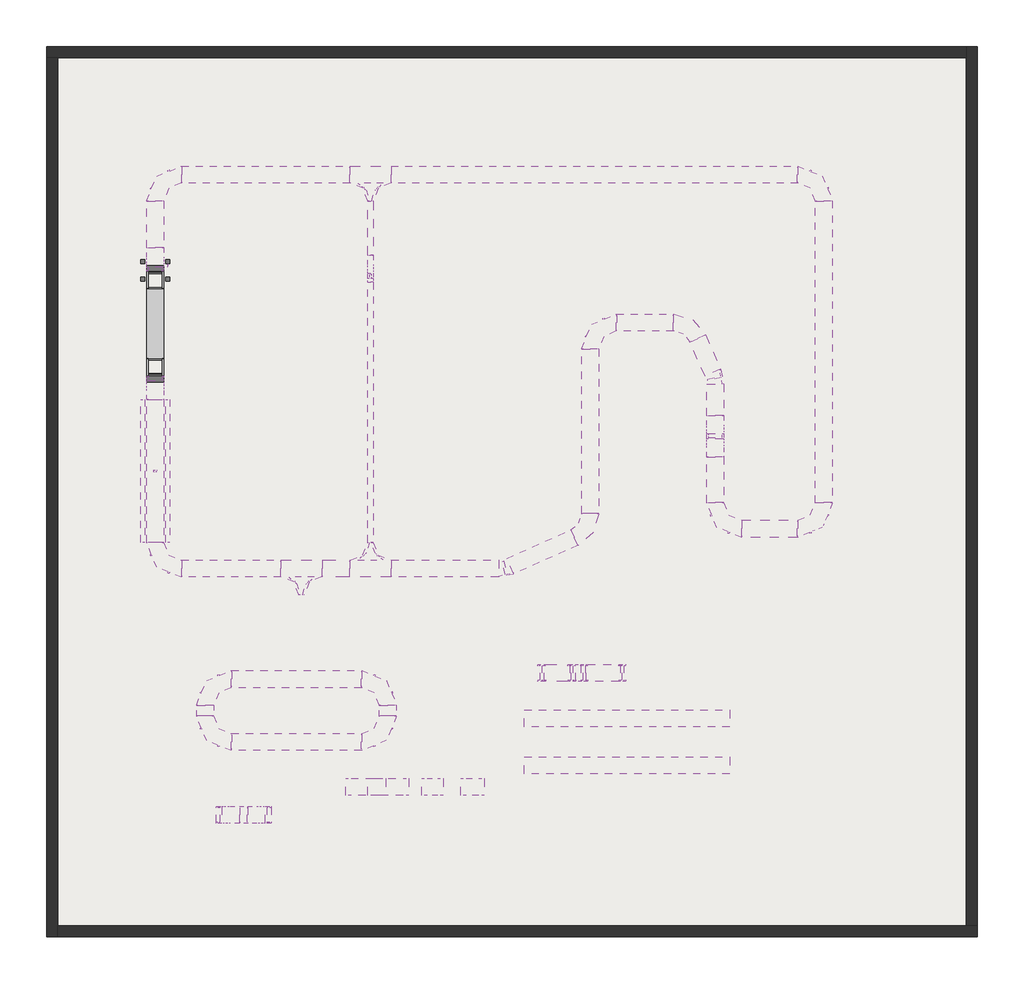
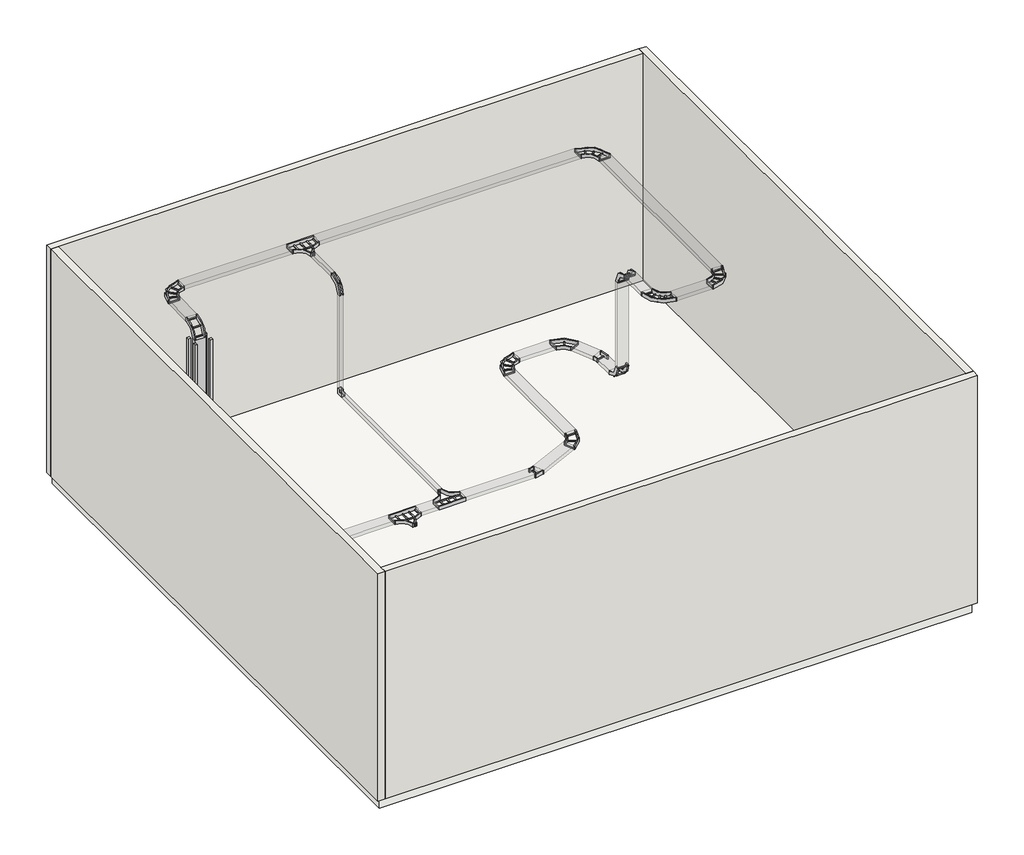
# One storey: 39 cable carrier segments, 33 cable carrier fittings, 10 proxies, 4 walls, 1 slab.
"""IFC4 building model written with IfcOpenShell, lengths in millimetres."""

from ifc_helpers import new_model, si_unit, frame, origin, place, context, project, spatial, polyline, outline, extrude, faceted_brep, transform, mapped, element, save
from components import generic_models_5b07f81f, generic_models_31e6af35, generic_models_7c58edcd, cable_carrier_fitting_be630497, cable_carrier_fitting_a6b9008f, cable_carrier_fitting_4d649961, cable_carrier_fitting_0e7ed510, cable_carrier_fitting_a781886d, cable_carrier_fitting_6eddc94f, cable_carrier_fitting_b7d36ccd, cable_carrier_fitting_2dadae37, cable_carrier_fitting_0848be47, cable_carrier_fitting_ae96e051, cable_carrier_fitting_1ec722ce, cable_carrier_fitting_dddc52f9

model = new_model("IFC4")

# Units and contexts
model_context = context("Model", 3, world=origin())
ifc_project = project(units=[si_unit("LENGTHUNIT", "METRE", prefix="MILLI")], contexts=[model_context])

# Site, building, storey
site = spatial("IfcSite", under=ifc_project)
building = spatial("IfcBuilding", under=site)
storey = spatial("IfcBuildingStorey", under=building, Name="Координационный план", Elevation=0.0)

# Proxies
placement = place(None, origin())
generic_models_shape = generic_models_5b07f81f(model_context)
element("IfcBuildingElementProxy", 1, Name="mS_GM_ОКЛ_Короб : ДваФ_EI_150_70мм_EI_45_10мм", ObjectType="mS_GM_ОКЛ_Короб : ДваФ_EI_150_70мм_EI_45_10мм", at=placement, inside=storey, context=model_context, shape_type="MappedRepresentation", body=[
    mapped(generic_models_shape, transform((6368.8657168, 4470.1116874, 2700.0), x_axis=(0.0, -1.0, 0.0), y_axis=(-1.0, 0.0, 0.0), z_axis=(0.0, 0.0, -1.0))),
])
generic_models_2_shape = generic_models_31e6af35(model_context)
element("IfcBuildingElementProxy", 2, Name="▲GM_ОКЛ_Плита : ДваФ", ObjectType="▲GM_ОКЛ_Плита : ДваФ", at=placement, inside=storey, context=model_context, shape_type="MappedRepresentation", body=[
    mapped(generic_models_2_shape, transform((6583.8657168, 4470.1116874, 2670.0), x_axis=(0.0, -1.0, 0.0), y_axis=(-1.0, 0.0, 0.0), z_axis=(0.0, 0.0, -1.0))),
])
element("IfcBuildingElementProxy", 3, Name="▲GM_ОКЛ_Плита : ДваФ", ObjectType="▲GM_ОКЛ_Плита : ДваФ", at=placement, inside=storey, context=model_context, shape_type="MappedRepresentation", body=[
    mapped(generic_models_2_shape, transform((6153.8657168, 4470.1116874, 2670.0), x_axis=(0.0, -1.0, 0.0), y_axis=(-1.0, 0.0, 0.0), z_axis=(0.0, 0.0, -1.0))),
])
element("IfcBuildingElementProxy", 4, Name="▲GM_ОКЛ_Плита : ДваФ", ObjectType="▲GM_ОКЛ_Плита : ДваФ", at=placement, inside=storey, context=model_context, shape_type="MappedRepresentation", body=[
    mapped(generic_models_2_shape, transform((6583.8657168, 4470.1116874, 2900.0), x_axis=(0.0, -1.0, 0.0), y_axis=(1.0, 0.0, 0.0), z_axis=(0.0, 0.0, 1.0))),
])
element("IfcBuildingElementProxy", 5, Name="▲GM_ОКЛ_Плита : ДваФ", ObjectType="▲GM_ОКЛ_Плита : ДваФ", at=placement, inside=storey, context=model_context, shape_type="MappedRepresentation", body=[
    mapped(generic_models_2_shape, transform((6153.8657168, 4470.1116874, 2900.0), x_axis=(0.0, -1.0, 0.0), y_axis=(1.0, 0.0, 0.0), z_axis=(0.0, 0.0, 1.0))),
])
element("IfcBuildingElementProxy", 6, Name="mS_GM_ОКЛ_Короб : Зона_EI_150_70мм_EI_45_10мм", ObjectType="mS_GM_ОКЛ_Короб : Зона_EI_150_70мм_EI_45_10мм", at=placement, inside=storey, context=model_context, shape_type="MappedRepresentation", body=[
    mapped(generic_models_shape, transform((6368.8657168, 8070.1116874, 3258.525), x_axis=(0.0, 0.0, -1.0), y_axis=(-1.0, 0.0, 0.0), z_axis=(0.0, 1.0, 0.0))),
])
generic_models_3_shape = generic_models_7c58edcd(model_context)
element("IfcBuildingElementProxy", 7, Name="▲GM_ОКЛ_Плита : ДваФ", ObjectType="▲GM_ОКЛ_Плита : ДваФ", at=placement, inside=storey, context=model_context, shape_type="MappedRepresentation", body=[
    mapped(generic_models_3_shape, transform((6583.8657168, 8100.1116874, 3258.525), x_axis=(0.0, 0.0, -1.0), y_axis=(-1.0, 0.0, 0.0), z_axis=(0.0, 1.0, 0.0))),
])
element("IfcBuildingElementProxy", 8, Name="▲GM_ОКЛ_Плита : ДваФ", ObjectType="▲GM_ОКЛ_Плита : ДваФ", at=placement, inside=storey, context=model_context, shape_type="MappedRepresentation", body=[
    mapped(generic_models_3_shape, transform((6153.8657168, 8100.1116874, 3258.525), x_axis=(0.0, 0.0, -1.0), y_axis=(-1.0, 0.0, 0.0), z_axis=(0.0, 1.0, 0.0))),
])
element("IfcBuildingElementProxy", 9, Name="▲GM_ОКЛ_Плита : ДваФ", ObjectType="▲GM_ОКЛ_Плита : ДваФ", at=placement, inside=storey, context=model_context, shape_type="MappedRepresentation", body=[
    mapped(generic_models_3_shape, transform((6583.8657168, 7870.1116874, 3258.525), x_axis=(0.0, 0.0, -1.0), y_axis=(1.0, 0.0, 0.0), z_axis=(0.0, -1.0, 0.0))),
])
element("IfcBuildingElementProxy", 10, Name="▲GM_ОКЛ_Плита : ДваФ", ObjectType="▲GM_ОКЛ_Плита : ДваФ", at=placement, inside=storey, context=model_context, shape_type="MappedRepresentation", body=[
    mapped(generic_models_3_shape, transform((6153.8657168, 7870.1116874, 3258.525), x_axis=(0.0, 0.0, -1.0), y_axis=(1.0, 0.0, 0.0), z_axis=(0.0, -1.0, 0.0))),
])

# Cable carrier fittings
cable_carrier_fitting_shape = cable_carrier_fitting_be630497(model_context)
element("IfcCableCarrierFitting", 11, ObjectType="ADSK_Ответвление_Лестничный лоток : Радиус 300 мм", at=placement, inside=storey, context=model_context, shape_type="MappedRepresentation", body=[
    mapped(cable_carrier_fitting_shape, transform((10138.1962624, 2760.1116874, 2750.0), x_axis=(-1.0, 0.0, 0.0), y_axis=(0.0, -1.0, 0.0), z_axis=(0.0, 0.0, 1.0))),
])
element("IfcCableCarrierFitting", 12, ObjectType="ADSK_Ответвление_Лестничный лоток : Радиус 300 мм", at=placement, inside=storey, context=model_context, shape_type="MappedRepresentation", body=[
    mapped(cable_carrier_fitting_shape, transform((8928.8657168, 2760.1116874, 2750.0), x_axis=(1.0, 0.0, 0.0), y_axis=(0.0, 1.0, 0.0), z_axis=(0.0, 0.0, 1.0))),
])
element("IfcCableCarrierFitting", 13, ObjectType="ADSK_Ответвление_Лестничный лоток : Радиус 300 мм", at=placement, inside=storey, context=model_context, shape_type="MappedRepresentation", body=[
    mapped(cable_carrier_fitting_shape, transform((10138.1962624, 9658.801597, 5927.05), x_axis=(1.0, 0.0, 0.0), y_axis=(0.0, 1.0, 0.0), z_axis=(0.0, 0.0, 1.0))),
])
cable_carrier_fitting_2_shape = cable_carrier_fitting_a6b9008f(model_context)
element("IfcCableCarrierFitting", 14, ObjectType="ADSK_Поворот вертикальный внутренний_Лестничный лоток : Радиус 300 мм", at=placement, inside=storey, context=model_context, shape_type="MappedRepresentation", body=[
    mapped(cable_carrier_fitting_2_shape, transform((13876.4246229, 931.7296082, 2581.5936892), x_axis=(1.0, 0.0, 0.0), y_axis=(0.0, 0.0, 1.0), z_axis=(0.0, -1.0, 0.0))),
])
cable_carrier_fitting_3_shape = cable_carrier_fitting_4d649961(model_context)
element("IfcCableCarrierFitting", 15, ObjectType="ADSK_Поворот вертикальный наружный_Лестничный лоток : Радиус 300 мм", at=placement, inside=storey, context=model_context, shape_type="MappedRepresentation", body=[
    mapped(cable_carrier_fitting_3_shape, transform((14551.8654433, 931.7296082, 2750.0), x_axis=(-1.0, 0.0, 0.0), y_axis=(0.0, 0.0, -1.0), z_axis=(0.0, -1.0, 0.0))),
])
cable_carrier_fitting_4_shape = cable_carrier_fitting_0e7ed510(model_context)
element("IfcCableCarrierFitting", 16, ObjectType="ADSK_Поворот вертикальный внутренний_Лестничный лоток : Радиус 300 мм", at=placement, inside=storey, context=model_context, shape_type="MappedRepresentation", body=[
    mapped(cable_carrier_fitting_4_shape, transform((13670.564527, 931.7296082, 2581.5936892), x_axis=(-1.0, 0.0, 0.0), y_axis=(0.0, 0.0, 1.0), z_axis=(0.0, 1.0, 0.0))),
])
cable_carrier_fitting_5_shape = cable_carrier_fitting_a781886d(model_context)
element("IfcCableCarrierFitting", 17, ObjectType="ADSK_Поворот вертикальный наружный_Лестничный лоток : Радиус 300 мм", at=placement, inside=storey, context=model_context, shape_type="MappedRepresentation", body=[
    mapped(cable_carrier_fitting_5_shape, transform((13131.8809099, 931.7296082, 2750.0), x_axis=(1.0, 0.0, 0.0), y_axis=(0.0, 0.0, -1.0), z_axis=(0.0, 1.0, 0.0))),
])
cable_carrier_fitting_6_shape = cable_carrier_fitting_6eddc94f(model_context)
element("IfcCableCarrierFitting", 18, ObjectType="ADSK_Поворот вертикальный внутренний_Минимальный размер : Перфорированный", at=placement, inside=storey, context=model_context, shape_type="MappedRepresentation", body=[
    mapped(cable_carrier_fitting_6_shape, transform((10138.1962624, 7888.801597, 2750.0), x_axis=(0.0, 0.0, -1.0), y_axis=(0.0, -1.0, 0.0), z_axis=(-1.0, 0.0, 0.0))),
])
cable_carrier_fitting_7_shape = cable_carrier_fitting_b7d36ccd(model_context)
element("IfcCableCarrierFitting", 19, ObjectType="ADSK_Поворот горизонтальный_Лестничный лоток : Радиус 300 мм", at=placement, inside=storey, context=model_context, shape_type="MappedRepresentation", body=[
    mapped(cable_carrier_fitting_7_shape, transform((12486.4715845, 2760.1116874, 2750.0), x_axis=(1.0, 0.0, 0.0), y_axis=(0.0, 1.0, 0.0), z_axis=(0.0, 0.0, 1.0))),
])
element("IfcCableCarrierFitting", 20, ObjectType="ADSK_Поворот горизонтальный_Лестничный лоток : Радиус 300 мм", at=placement, inside=storey, context=model_context, shape_type="MappedRepresentation", body=[
    mapped(cable_carrier_fitting_7_shape, transform((16175.8269767, 6098.801597, 2750.0), x_axis=(0.0, 1.0, 0.0), y_axis=(-1.0, 0.0, 0.0), z_axis=(0.0, 0.0, 1.0))),
])
cable_carrier_fitting_8_shape = cable_carrier_fitting_2dadae37(model_context)
element("IfcCableCarrierFitting", 21, ObjectType="ADSK_Поворот горизонтальный_Лестничный лоток : Радиус 300 мм", at=placement, inside=storey, context=model_context, shape_type="MappedRepresentation", body=[
    mapped(cable_carrier_fitting_8_shape, transform((13984.686135, 3427.1597821, 2750.0), x_axis=(0.913545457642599, 0.40673664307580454, 0.0), y_axis=(-0.40673664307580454, 0.913545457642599, 0.0), z_axis=(0.0, 0.0, 1.0))),
])
element("IfcCableCarrierFitting", 22, ObjectType="ADSK_Поворот горизонтальный_Лестничный лоток : Радиус 300 мм", at=placement, inside=storey, context=model_context, shape_type="MappedRepresentation", body=[
    mapped(cable_carrier_fitting_8_shape, transform((15744.686135, 7067.1597821, 2750.0), x_axis=(-0.40673664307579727, 0.9135454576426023, 0.0), y_axis=(-0.9135454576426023, -0.40673664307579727, 0.0), z_axis=(0.0, 0.0, 1.0))),
])
cable_carrier_fitting_9_shape = cable_carrier_fitting_0848be47(model_context)
element("IfcCableCarrierFitting", 23, ObjectType="ADSK_Поворот горизонтальный_Лестничный лоток : Радиус 300 мм", at=placement, inside=storey, context=model_context, shape_type="MappedRepresentation", body=[
    mapped(cable_carrier_fitting_9_shape, transform((13984.686135, 7067.1597821, 2750.0), x_axis=(-1.0, 0.0, 0.0), y_axis=(0.0, -1.0, 0.0), z_axis=(0.0, 0.0, 1.0))),
])
element("IfcCableCarrierFitting", 24, ObjectType="ADSK_Поворот горизонтальный_Лестничный лоток : Радиус 300 мм", at=placement, inside=storey, context=model_context, shape_type="MappedRepresentation", body=[
    mapped(cable_carrier_fitting_9_shape, transform((6368.8657168, 2760.1116874, 2750.0), x_axis=(0.0, -1.0, 0.0), y_axis=(1.0, 0.0, 0.0), z_axis=(0.0, 0.0, 1.0))),
])
element("IfcCableCarrierFitting", 25, ObjectType="ADSK_Поворот горизонтальный_Лестничный лоток : Радиус 300 мм", at=placement, inside=storey, context=model_context, shape_type="MappedRepresentation", body=[
    mapped(cable_carrier_fitting_9_shape, transform((10441.4032336, 823.8422519, 2750.0), x_axis=(0.0, 1.0, 0.0), y_axis=(-1.0, 0.0, 0.0), z_axis=(0.0, 0.0, 1.0))),
])
element("IfcCableCarrierFitting", 26, ObjectType="ADSK_Поворот горизонтальный_Лестничный лоток : Радиус 300 мм", at=placement, inside=storey, context=model_context, shape_type="MappedRepresentation", body=[
    mapped(cable_carrier_fitting_9_shape, transform((10441.4032336, -276.1577481, 2750.0), x_axis=(1.0, 0.0, 0.0), y_axis=(0.0, 1.0, 0.0), z_axis=(0.0, 0.0, 1.0))),
])
element("IfcCableCarrierFitting", 27, ObjectType="ADSK_Поворот горизонтальный_Лестничный лоток : Радиус 300 мм", at=placement, inside=storey, context=model_context, shape_type="MappedRepresentation", body=[
    mapped(cable_carrier_fitting_9_shape, transform((7241.4032336, 823.8422519, 2750.0), x_axis=(-1.0, 0.0, 0.0), y_axis=(0.0, -1.0, 0.0), z_axis=(0.0, 0.0, 1.0))),
])
element("IfcCableCarrierFitting", 28, ObjectType="ADSK_Поворот горизонтальный_Лестничный лоток : Радиус 300 мм", at=placement, inside=storey, context=model_context, shape_type="MappedRepresentation", body=[
    mapped(cable_carrier_fitting_9_shape, transform((7241.4032336, -276.1577481, 2750.0), x_axis=(0.0, -1.0, 0.0), y_axis=(1.0, 0.0, 0.0), z_axis=(0.0, 0.0, 1.0))),
])
element("IfcCableCarrierFitting", 29, ObjectType="ADSK_Поворот горизонтальный_Лестничный лоток : Радиус 300 мм", at=placement, inside=storey, context=model_context, shape_type="MappedRepresentation", body=[
    mapped(cable_carrier_fitting_9_shape, transform((16175.8269767, 3458.801597, 5927.05), x_axis=(0.0, -1.0, 0.0), y_axis=(1.0, 0.0, 0.0), z_axis=(0.0, 0.0, 1.0))),
])
element("IfcCableCarrierFitting", 30, ObjectType="ADSK_Поворот горизонтальный_Лестничный лоток : Радиус 300 мм", at=placement, inside=storey, context=model_context, shape_type="MappedRepresentation", body=[
    mapped(cable_carrier_fitting_9_shape, transform((18075.8269767, 3458.801597, 5927.05), x_axis=(1.0, 0.0, 0.0), y_axis=(0.0, 1.0, 0.0), z_axis=(0.0, 0.0, 1.0))),
])
element("IfcCableCarrierFitting", 31, ObjectType="ADSK_Поворот горизонтальный_Лестничный лоток : Радиус 300 мм", at=placement, inside=storey, context=model_context, shape_type="MappedRepresentation", body=[
    mapped(cable_carrier_fitting_9_shape, transform((6368.8657168, 9658.801597, 5927.05), x_axis=(-1.0, 0.0, 0.0), y_axis=(0.0, -1.0, 0.0), z_axis=(0.0, 0.0, 1.0))),
])
element("IfcCableCarrierFitting", 32, ObjectType="ADSK_Поворот горизонтальный_Лестничный лоток : Радиус 300 мм", at=placement, inside=storey, context=model_context, shape_type="MappedRepresentation", body=[
    mapped(cable_carrier_fitting_9_shape, transform((18075.8269767, 9658.801597, 5927.05), x_axis=(0.0, 1.0, 0.0), y_axis=(-1.0, 0.0, 0.0), z_axis=(0.0, 0.0, 1.0))),
])
cable_carrier_fitting_10_shape = cable_carrier_fitting_ae96e051(model_context)
element("IfcCableCarrierFitting", 33, ObjectType="ADSK_Поворот вертикальный внутренний_Лестничный лоток : Радиус 300 мм", at=placement, inside=storey, context=model_context, shape_type="MappedRepresentation", body=[
    mapped(cable_carrier_fitting_10_shape, transform((16175.8269767, 5078.801597, 2750.0), x_axis=(0.0, -1.0, 0.0), y_axis=(0.0, 0.0, 1.0), z_axis=(-1.0, 0.0, 0.0))),
])
element("IfcCableCarrierFitting", 34, ObjectType="ADSK_Поворот вертикальный внутренний_Лестничный лоток : Радиус 300 мм", at=placement, inside=storey, context=model_context, shape_type="MappedRepresentation", body=[
    mapped(cable_carrier_fitting_10_shape, transform((6368.8657168, 6080.1116874, 590.0), x_axis=(0.0, 0.0, -1.0), y_axis=(0.0, 1.0, 0.0), z_axis=(1.0, 0.0, 0.0))),
])
element("IfcCableCarrierFitting", 35, ObjectType="ADSK_Поворот вертикальный внутренний_Лестничный лоток : Радиус 300 мм", at=placement, inside=storey, context=model_context, shape_type="MappedRepresentation", body=[
    mapped(cable_carrier_fitting_10_shape, transform((7486.1721434, -1554.184289, 1301.2009926), x_axis=(0.0, 0.0, -1.0), y_axis=(1.0, 0.0, 0.0), z_axis=(0.0, -1.0, 0.0))),
])
element("IfcCableCarrierFitting", 36, ObjectType="ADSK_Поворот вертикальный внутренний_Лестничный лоток : Радиус 300 мм", at=placement, inside=storey, context=model_context, shape_type="MappedRepresentation", body=[
    mapped(cable_carrier_fitting_10_shape, transform((8346.1721434, -1554.184289, 1301.2009926), x_axis=(1.0, 0.0, 0.0), y_axis=(0.0, 0.0, 1.0), z_axis=(0.0, -1.0, 0.0))),
])
element("IfcCableCarrierFitting", 37, ObjectType="ADSK_Поворот вертикальный внутренний_Лестничный лоток : Радиус 300 мм", at=placement, inside=storey, context=model_context, shape_type="MappedRepresentation", body=[
    mapped(cable_carrier_fitting_10_shape, transform((6368.8657168, 8020.1116874, 590.0), x_axis=(0.0, 1.0, 0.0), y_axis=(0.0, 0.0, 1.0), z_axis=(1.0, 0.0, 0.0))),
])
cable_carrier_fitting_11_shape = cable_carrier_fitting_1ec722ce(model_context)
element("IfcCableCarrierFitting", 38, ObjectType="ADSK_Поворот вертикальный наружный_Лестничный лоток : Радиус 300 мм", at=placement, inside=storey, context=model_context, shape_type="MappedRepresentation", body=[
    mapped(cable_carrier_fitting_11_shape, transform((16175.8269767, 5078.801597, 5927.05), x_axis=(0.0, 0.0, 1.0), y_axis=(0.0, -1.0, 0.0), z_axis=(1.0, 0.0, 0.0))),
])
element("IfcCableCarrierFitting", 39, ObjectType="ADSK_Поворот вертикальный наружный_Лестничный лоток : Радиус 300 мм", at=placement, inside=storey, context=model_context, shape_type="MappedRepresentation", body=[
    mapped(cable_carrier_fitting_11_shape, transform((6368.8657168, 6080.1116874, 2750.0), x_axis=(0.0, 1.0, 0.0), y_axis=(0.0, 0.0, -1.0), z_axis=(-1.0, 0.0, 0.0))),
])
element("IfcCableCarrierFitting", 40, ObjectType="ADSK_Поворот вертикальный наружный_Лестничный лоток : Радиус 300 мм", at=placement, inside=storey, context=model_context, shape_type="MappedRepresentation", body=[
    mapped(cable_carrier_fitting_11_shape, transform((7486.1721434, -1554.184289, 3701.2009926), x_axis=(0.0, 0.0, 1.0), y_axis=(1.0, 0.0, 0.0), z_axis=(0.0, 1.0, 0.0))),
])
element("IfcCableCarrierFitting", 41, ObjectType="ADSK_Поворот вертикальный наружный_Лестничный лоток : Радиус 300 мм", at=placement, inside=storey, context=model_context, shape_type="MappedRepresentation", body=[
    mapped(cable_carrier_fitting_11_shape, transform((8346.1721434, -1554.184289, 3701.2009926), x_axis=(1.0, 0.0, 0.0), y_axis=(0.0, 0.0, -1.0), z_axis=(0.0, 1.0, 0.0))),
])
element("IfcCableCarrierFitting", 42, ObjectType="ADSK_Поворот вертикальный наружный_Лестничный лоток : Радиус 300 мм", at=placement, inside=storey, context=model_context, shape_type="MappedRepresentation", body=[
    mapped(cable_carrier_fitting_11_shape, transform((6368.8657168, 8020.1116874, 5927.05), x_axis=(0.0, 0.0, 1.0), y_axis=(0.0, 1.0, 0.0), z_axis=(-1.0, 0.0, 0.0))),
])
cable_carrier_fitting_12_shape = cable_carrier_fitting_dddc52f9(model_context)
element("IfcCableCarrierFitting", 43, ObjectType="ADSK_Поворот вертикальный наружный_Лестничный лоток : Радиус 300 мм", at=placement, inside=storey, context=model_context, shape_type="MappedRepresentation", body=[
    mapped(cable_carrier_fitting_12_shape, transform((10138.1962624, 7888.801597, 5927.05), x_axis=(0.0, -1.0, 0.0), y_axis=(0.0, 0.0, -1.0), z_axis=(1.0, 0.0, 0.0))),
])

# Cable carrier segments
element("IfcCableCarrierSegment", 44, ObjectType="ADSK_Лестничный кабельный лоток", at=placement, inside=storey, context=model_context, shape_type="SweptSolid", body=[
    extrude(outline(polyline([(8568.8657168, 2910.1116874), (8568.8657168, 2610.1116874), (6828.8657168, 2610.1116874), (6828.8657168, 2910.1116874), (8568.8657168, 2910.1116874)])), frame((0.0, 0.0, 2700.0), z_axis=(0.0, 0.0, 1.0), x_axis=(1.0, 0.0, 0.0)), (0.0, 0.0, 1.0), 100.0),
])
element("IfcCableCarrierSegment", 45, ObjectType="ADSK_Лестничный кабельный лоток", at=placement, inside=storey, context=model_context, shape_type="SweptSolid", body=[
    extrude(outline(polyline([(12643.9985722, 2666.0517793), (12521.9775792, 2940.1154166), (13647.5716734, 3441.2621953), (13769.5926663, 3167.198558), (12643.9985722, 2666.0517793)])), frame((0.0, 0.0, 2700.0), z_axis=(0.0, 0.0, 1.0), x_axis=(1.0, 0.0, 0.0)), (0.0, 0.0, 1.0), 100.0),
])
element("IfcCableCarrierSegment", 46, ObjectType="ADSK_Лестничный кабельный лоток", at=placement, inside=storey, context=model_context, shape_type="SweptSolid", body=[
    extrude(outline(polyline([(9778.1962624, 2910.1116874), (9778.1962624, 2610.1116874), (9288.8657168, 2610.1116874), (9288.8657168, 2910.1116874), (9778.1962624, 2910.1116874)])), frame((0.0, 0.0, 2700.0), z_axis=(0.0, 0.0, 1.0), x_axis=(1.0, 0.0, 0.0)), (0.0, 0.0, 1.0), 100.0),
])
element("IfcCableCarrierSegment", 47, ObjectType="ADSK_Лестничный кабельный лоток", at=placement, inside=storey, context=model_context, shape_type="SweptSolid", body=[
    extrude(outline(polyline([(13733.9988469, 781.7296082), (13733.9988469, 1081.7296082), (13823.4500266, 1081.7296082), (13823.4500266, 781.7296082), (13733.9988469, 781.7296082)])), frame((0.0, 0.0, 2531.5936892), z_axis=(0.0, 0.0, 1.0), x_axis=(1.0, 0.0, 0.0)), (0.0, 0.0, 1.0), 100.0),
])
element("IfcCableCarrierSegment", 48, ObjectType="ADSK_Лестничный кабельный лоток", at=placement, inside=storey, context=model_context, shape_type="SweptSolid", body=[
    extrude(outline(polyline([(0.0, -300.0), (0.0, 0.0), (590.1693226, 0.0), (590.1693226, -300.0), (0.0, -300.0)])), frame((14512.5605136, 781.7296082, 2688.6694989), z_axis=(-0.24192189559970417, 0.0, 0.9702957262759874), x_axis=(-0.9702957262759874, 0.0, -0.24192189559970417)), (0.0, 0.0, 1.0), 100.0),
])
element("IfcCableCarrierSegment", 49, ObjectType="ADSK_Лестничный кабельный лоток", at=placement, inside=storey, context=model_context, shape_type="SweptSolid", body=[
    extrude(outline(polyline([(0.0, -300.0), (0.0, 0.0), (437.525482, 0.0), (437.525482, -300.0), (0.0, -300.0)])), frame((13177.5063202, 1081.7296082, 2683.3499071), z_axis=(0.29838423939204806, 0.0, 0.9544458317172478), x_axis=(0.9544458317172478, 0.0, -0.29838423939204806)), (0.0, 0.0, 1.0), 100.0),
])
element("IfcCableCarrierSegment", 50, ObjectType="ADSK_Перфорированный кабельный лоток", at=placement, inside=storey, context=model_context, shape_type="SweptSolid", body=[
    extrude(outline(polyline([(10188.1962624, 3220.1116874), (10088.1962624, 3220.1116874), (10088.1962624, 7778.801597), (10188.1962624, 7778.801597), (10188.1962624, 3220.1116874)])), frame((0.0, 0.0, 2700.0), z_axis=(0.0, 0.0, 1.0), x_axis=(1.0, 0.0, 0.0)), (0.0, 0.0, 1.0), 100.0),
])
element("IfcCableCarrierSegment", 51, ObjectType="ADSK_Лестничный кабельный лоток", at=placement, inside=storey, context=model_context, shape_type="SweptSolid", body=[
    extrude(outline(polyline([(10498.1962624, 2610.1116874), (10498.1962624, 2910.1116874), (12380.8211317, 2910.1116874), (12380.8211317, 2610.1116874), (10498.1962624, 2610.1116874)])), frame((0.0, 0.0, 2700.0), z_axis=(0.0, 0.0, 1.0), x_axis=(1.0, 0.0, 0.0)), (0.0, 0.0, 1.0), 100.0),
])
element("IfcCableCarrierSegment", 52, ObjectType="ADSK_Лестничный кабельный лоток", at=placement, inside=storey, context=model_context, shape_type="SweptSolid", body=[
    extrude(outline(polyline([(12828.907791, -10.725565), (12828.907791, 289.274435), (16428.907791, 289.274435), (16428.907791, -10.725565), (12828.907791, -10.725565)])), frame((0.0, 0.0, 2697.0321267), z_axis=(0.0, 0.0, 1.0), x_axis=(1.0, 0.0, 0.0)), (0.0, 0.0, 1.0), 100.0),
])
element("IfcCableCarrierSegment", 53, ObjectType="ADSK_Лестничный кабельный лоток", at=placement, inside=storey, context=model_context, shape_type="SweptSolid", body=[
    extrude(outline(polyline([(16428.907791, -535.7905987), (16428.907791, -835.7905987), (12828.907791, -835.7905987), (12828.907791, -535.7905987), (16428.907791, -535.7905987)])), frame((0.0, 0.0, 2593.9339828), z_axis=(0.0, 0.0, 1.0), x_axis=(1.0, 0.0, 0.0)), (0.0, 0.0, 1.0), 100.0),
])
element("IfcCableCarrierSegment", 54, ObjectType="ADSK_Лестничный кабельный лоток", at=placement, inside=storey, context=model_context, shape_type="SweptSolid", body=[
    extrude(outline(polyline([(50.0, 8.113883), (-50.0, 8.113883), (-50.0, 308.113883), (50.0, 308.113883), (50.0, 8.113883)])), frame((9751.6719945, -1220.6622766, 1688.9114271), z_axis=(0.29237170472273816, 0.0, 0.9563047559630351), x_axis=(0.9563047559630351, 0.0, -0.29237170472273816)), (0.0, 0.0, 1.0), 2060.0),
])
element("IfcCableCarrierSegment", 55, ObjectType="ADSK_Лестничный кабельный лоток", at=placement, inside=storey, context=model_context, shape_type="SweptSolid", body=[
    extrude(outline(polyline([(50.0, -8.1138831), (50.0, -308.1138831), (-50.0, -308.1138831), (-50.0, -8.1138831), (50.0, -8.1138831)])), frame((10140.1193179, -904.4345105, 1589.9994669), z_axis=(0.292371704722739, 0.0, 0.9563047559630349), x_axis=(0.9563047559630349, 0.0, -0.292371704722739)), (0.0, 0.0, 1.0), 2120.0),
])
element("IfcCableCarrierSegment", 56, ObjectType="ADSK_Лестничный кабельный лоток", at=placement, inside=storey, context=model_context, shape_type="SweptSolid", body=[
    extrude(outline(polyline([(-50.0, -308.1138831), (-50.0, -8.1138831), (50.0000001, -8.1138831), (50.0000001, -308.1138831), (-50.0, -308.1138831)])), frame((11360.5549177, -904.4345105, 1673.8772293), z_axis=(-0.1391731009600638, 0.0, 0.9902680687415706), x_axis=(0.9902680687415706, 0.0, 0.1391731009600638)), (0.0, 0.0, 1.0), 2000.0),
])
element("IfcCableCarrierSegment", 57, ObjectType="ADSK_Лестничный кабельный лоток", at=placement, inside=storey, context=model_context, shape_type="SweptSolid", body=[
    extrude(outline(polyline([(-50.0, 308.113883), (50.0000001, 308.113883), (50.0000001, 8.113883), (-50.0, 8.113883), (-50.0, 308.113883)])), frame((12081.7920474, -1220.6622766, 1732.9345272), z_axis=(-0.15643446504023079, 0.0, 0.9876883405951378), x_axis=(0.9876883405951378, 0.0, 0.15643446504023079)), (0.0, 0.0, 1.0), 2020.0),
])
element("IfcCableCarrierSegment", 58, ObjectType="ADSK_Лестничный кабельный лоток", at=placement, inside=storey, context=model_context, shape_type="SweptSolid", body=[
    extrude(outline(polyline([(14134.686135, 3729.393199), (13834.686135, 3729.393199), (13834.686135, 6607.1597821), (14134.686135, 6607.1597821), (14134.686135, 3729.393199)])), frame((0.0, 0.0, 2700.0), z_axis=(0.0, 0.0, 1.0), x_axis=(1.0, 0.0, 0.0)), (0.0, 0.0, 1.0), 100.0),
])
element("IfcCableCarrierSegment", 59, ObjectType="ADSK_Лестничный кабельный лоток", at=placement, inside=storey, context=model_context, shape_type="SweptSolid", body=[
    extrude(outline(polyline([(14444.686135, 6917.1597821), (14444.686135, 7217.1597821), (15442.4527181, 7217.1597821), (15442.4527181, 6917.1597821), (14444.686135, 6917.1597821)])), frame((0.0, 0.0, 2700.0), z_axis=(0.0, 0.0, 1.0), x_axis=(1.0, 0.0, 0.0)), (0.0, 0.0, 1.0), 100.0),
])
element("IfcCableCarrierSegment", 60, ObjectType="ADSK_Лестничный кабельный лоток", at=placement, inside=storey, context=model_context, shape_type="SweptSolid", body=[
    extrude(outline(polyline([(15730.5837218, 6730.0453204), (16004.6473591, 6852.0663134), (16269.8868848, 6256.3285847), (15995.8232475, 6134.3075917), (15730.5837218, 6730.0453204)])), frame((0.0, 0.0, 2700.0), z_axis=(0.0, 0.0, 1.0), x_axis=(1.0, 0.0, 0.0)), (0.0, 0.0, 1.0), 100.0),
])
element("IfcCableCarrierSegment", 61, ObjectType="ADSK_Лестничный кабельный лоток", at=placement, inside=storey, context=model_context, shape_type="SweptSolid", body=[
    extrude(outline(polyline([(16025.8269767, 5993.1511442), (16325.8269767, 5993.1511442), (16325.8269767, 5438.801597), (16025.8269767, 5438.801597), (16025.8269767, 5993.1511442)])), frame((0.0, 0.0, 2700.0), z_axis=(0.0, 0.0, 1.0), x_axis=(1.0, 0.0, 0.0)), (0.0, 0.0, 1.0), 100.0),
])
element("IfcCableCarrierSegment", 62, ObjectType="ADSK_Лестничный кабельный лоток", at=placement, inside=storey, context=model_context, shape_type="SweptSolid", body=[
    extrude(outline(polyline([(16025.8269767, 4718.801597), (16325.8269767, 4718.801597), (16325.8269767, 3918.801597), (16025.8269767, 3918.801597), (16025.8269767, 4718.801597)])), frame((0.0, 0.0, 5877.05), z_axis=(0.0, 0.0, 1.0), x_axis=(1.0, 0.0, 0.0)), (0.0, 0.0, 1.0), 100.0),
])
element("IfcCableCarrierSegment", 63, ObjectType="ADSK_Лестничный кабельный лоток", at=placement, inside=storey, context=model_context, shape_type="SweptSolid", body=[
    extrude(outline(polyline([(16025.8269767, 5028.801597), (16025.8269767, 5128.801597), (16325.8269767, 5128.801597), (16325.8269767, 5028.801597), (16025.8269767, 5028.801597)])), frame((0.0, 0.0, 3110.0), z_axis=(0.0, 0.0, 1.0), x_axis=(1.0, 0.0, 0.0)), (0.0, 0.0, 1.0), 2457.05),
])
element("IfcCableCarrierSegment", 64, ObjectType="ADSK_Лестничный кабельный лоток", at=placement, inside=storey, context=model_context, shape_type="SweptSolid", body=[
    extrude(outline(polyline([(6518.8657168, 3220.1116874), (6218.8657168, 3220.1116874), (6218.8657168, 5720.1116874), (6518.8657168, 5720.1116874), (6518.8657168, 3220.1116874)])), frame((0.0, 0.0, 2700.0), z_axis=(0.0, 0.0, 1.0), x_axis=(1.0, 0.0, 0.0)), (0.0, 0.0, 1.0), 100.0),
])
element("IfcCableCarrierSegment", 65, ObjectType="ADSK_Лестничный кабельный лоток", at=placement, inside=storey, context=model_context, shape_type="SweptSolid", body=[
    extrude(outline(polyline([(6518.8657168, 6030.1116874), (6218.8657168, 6030.1116874), (6218.8657168, 6130.1116874), (6518.8657168, 6130.1116874), (6518.8657168, 6030.1116874)])), frame((0.0, 0.0, 950.0), z_axis=(0.0, 0.0, 1.0), x_axis=(1.0, 0.0, 0.0)), (0.0, 0.0, 1.0), 1440.0),
])
element("IfcCableCarrierSegment", 66, ObjectType="ADSK_Лестничный кабельный лоток", at=placement, inside=storey, context=model_context, shape_type="SweptSolid", body=[
    extrude(outline(polyline([(6518.8657168, 6440.1116874), (6218.8657168, 6440.1116874), (6218.8657168, 7660.1116874), (6518.8657168, 7660.1116874), (6518.8657168, 6440.1116874)])), frame((0.0, 0.0, 540.0), z_axis=(0.0, 0.0, 1.0), x_axis=(1.0, 0.0, 0.0)), (0.0, 0.0, 1.0), 100.0),
])
element("IfcCableCarrierSegment", 67, ObjectType="ADSK_Лестничный кабельный лоток", at=placement, inside=storey, context=model_context, shape_type="SweptSolid", body=[
    extrude(outline(polyline([(7846.1721434, -1704.184289), (7846.1721434, -1404.184289), (7986.1721434, -1404.184289), (7986.1721434, -1704.184289), (7846.1721434, -1704.184289)])), frame((0.0, 0.0, 3651.2009926), z_axis=(0.0, 0.0, 1.0), x_axis=(1.0, 0.0, 0.0)), (0.0, 0.0, 1.0), 100.0),
])
element("IfcCableCarrierSegment", 68, ObjectType="ADSK_Лестничный кабельный лоток", at=placement, inside=storey, context=model_context, shape_type="SweptSolid", body=[
    extrude(outline(polyline([(7436.1721434, -1704.184289), (7436.1721434, -1404.184289), (7536.1721434, -1404.184289), (7536.1721434, -1704.184289), (7436.1721434, -1704.184289)])), frame((0.0, 0.0, 1661.2009926), z_axis=(0.0, 0.0, 1.0), x_axis=(1.0, 0.0, 0.0)), (0.0, 0.0, 1.0), 1680.0),
])
element("IfcCableCarrierSegment", 69, ObjectType="ADSK_Лестничный кабельный лоток", at=placement, inside=storey, context=model_context, shape_type="SweptSolid", body=[
    extrude(outline(polyline([(7846.1721434, -1704.184289), (7846.1721434, -1404.184289), (7986.1721434, -1404.184289), (7986.1721434, -1704.184289), (7846.1721434, -1704.184289)])), frame((0.0, 0.0, 1251.2009926), z_axis=(0.0, 0.0, 1.0), x_axis=(1.0, 0.0, 0.0)), (0.0, 0.0, 1.0), 100.0),
])
element("IfcCableCarrierSegment", 70, ObjectType="ADSK_Лестничный кабельный лоток", at=placement, inside=storey, context=model_context, shape_type="SweptSolid", body=[
    extrude(outline(polyline([(8296.1721434, -1404.184289), (8396.1721434, -1404.184289), (8396.1721434, -1704.184289), (8296.1721434, -1704.184289), (8296.1721434, -1404.184289)])), frame((0.0, 0.0, 1661.2009926), z_axis=(0.0, 0.0, 1.0), x_axis=(1.0, 0.0, 0.0)), (0.0, 0.0, 1.0), 1680.0),
])
element("IfcCableCarrierSegment", 71, ObjectType="ADSK_Лестничный кабельный лоток", at=placement, inside=storey, context=model_context, shape_type="SweptSolid", body=[
    extrude(outline(polyline([(7701.4032336, 673.8422519), (7701.4032336, 973.8422519), (9981.4032336, 973.8422519), (9981.4032336, 673.8422519), (7701.4032336, 673.8422519)])), frame((0.0, 0.0, 2700.0), z_axis=(0.0, 0.0, 1.0), x_axis=(1.0, 0.0, 0.0)), (0.0, 0.0, 1.0), 100.0),
])
element("IfcCableCarrierSegment", 72, ObjectType="ADSK_Лестничный кабельный лоток", at=placement, inside=storey, context=model_context, shape_type="SweptSolid", body=[
    extrude(outline(polyline([(10291.4032336, 363.8422519), (10591.4032336, 363.8422519), (10591.4032336, 183.8422519), (10291.4032336, 183.8422519), (10291.4032336, 363.8422519)])), frame((0.0, 0.0, 2700.0), z_axis=(0.0, 0.0, 1.0), x_axis=(1.0, 0.0, 0.0)), (0.0, 0.0, 1.0), 100.0),
])
element("IfcCableCarrierSegment", 73, ObjectType="ADSK_Лестничный кабельный лоток", at=placement, inside=storey, context=model_context, shape_type="SweptSolid", body=[
    extrude(outline(polyline([(9981.4032336, -126.1577481), (9981.4032336, -426.1577481), (7701.4032336, -426.1577481), (7701.4032336, -126.1577481), (9981.4032336, -126.1577481)])), frame((0.0, 0.0, 2700.0), z_axis=(0.0, 0.0, 1.0), x_axis=(1.0, 0.0, 0.0)), (0.0, 0.0, 1.0), 100.0),
])
element("IfcCableCarrierSegment", 74, ObjectType="ADSK_Лестничный кабельный лоток", at=placement, inside=storey, context=model_context, shape_type="SweptSolid", body=[
    extrude(outline(polyline([(7091.4032336, 363.8422519), (7391.4032336, 363.8422519), (7391.4032336, 183.8422519), (7091.4032336, 183.8422519), (7091.4032336, 363.8422519)])), frame((0.0, 0.0, 2700.0), z_axis=(0.0, 0.0, 1.0), x_axis=(1.0, 0.0, 0.0)), (0.0, 0.0, 1.0), 100.0),
])
element("IfcCableCarrierSegment", 75, ObjectType="ADSK_Лестничный кабельный лоток", at=placement, inside=storey, context=model_context, shape_type="SweptSolid", body=[
    extrude(outline(polyline([(16635.8269767, 3308.801597), (16635.8269767, 3608.801597), (17615.8269767, 3608.801597), (17615.8269767, 3308.801597), (16635.8269767, 3308.801597)])), frame((0.0, 0.0, 5877.05), z_axis=(0.0, 0.0, 1.0), x_axis=(1.0, 0.0, 0.0)), (0.0, 0.0, 1.0), 100.0),
])
element("IfcCableCarrierSegment", 76, ObjectType="ADSK_Лестничный кабельный лоток", at=placement, inside=storey, context=model_context, shape_type="SweptSolid", body=[
    extrude(outline(polyline([(18225.8269767, 3918.801597), (17925.8269767, 3918.801597), (17925.8269767, 9198.801597), (18225.8269767, 9198.801597), (18225.8269767, 3918.801597)])), frame((0.0, 0.0, 5877.05), z_axis=(0.0, 0.0, 1.0), x_axis=(1.0, 0.0, 0.0)), (0.0, 0.0, 1.0), 100.0),
])
element("IfcCableCarrierSegment", 77, ObjectType="ADSK_Лестничный кабельный лоток", at=placement, inside=storey, context=model_context, shape_type="SweptSolid", body=[
    extrude(outline(polyline([(9778.1962624, 9808.801597), (9778.1962624, 9508.801597), (6828.8657168, 9508.801597), (6828.8657168, 9808.801597), (9778.1962624, 9808.801597)])), frame((0.0, 0.0, 5877.05), z_axis=(0.0, 0.0, 1.0), x_axis=(1.0, 0.0, 0.0)), (0.0, 0.0, 1.0), 100.0),
])
element("IfcCableCarrierSegment", 78, ObjectType="ADSK_Лестничный кабельный лоток", at=placement, inside=storey, context=model_context, shape_type="SweptSolid", body=[
    extrude(outline(polyline([(6518.8657168, 8380.1116874), (6218.8657168, 8380.1116874), (6218.8657168, 9198.801597), (6518.8657168, 9198.801597), (6518.8657168, 8380.1116874)])), frame((0.0, 0.0, 5877.05), z_axis=(0.0, 0.0, 1.0), x_axis=(1.0, 0.0, 0.0)), (0.0, 0.0, 1.0), 100.0),
])
element("IfcCableCarrierSegment", 79, ObjectType="ADSK_Лестничный кабельный лоток", at=placement, inside=storey, context=model_context, shape_type="SweptSolid", body=[
    extrude(outline(polyline([(6518.8657168, 8070.1116874), (6518.8657168, 7970.1116874), (6218.8657168, 7970.1116874), (6218.8657168, 8070.1116874), (6518.8657168, 8070.1116874)])), frame((0.0, 0.0, 950.0), z_axis=(0.0, 0.0, 1.0), x_axis=(1.0, 0.0, 0.0)), (0.0, 0.0, 1.0), 4617.05),
])
element("IfcCableCarrierSegment", 80, ObjectType="ADSK_Неперфорированный кабельный лоток", at=placement, inside=storey, context=model_context, shape_type="SweptSolid", body=[
    extrude(outline(polyline([(10088.1962624, 9198.801597), (10188.1962624, 9198.801597), (10188.1962624, 8248.801597), (10088.1962624, 8248.801597), (10088.1962624, 9198.801597)])), frame((0.0, 0.0, 5877.05), z_axis=(0.0, 0.0, 1.0), x_axis=(1.0, 0.0, 0.0)), (0.0, 0.0, 1.0), 100.0),
])
element("IfcCableCarrierSegment", 81, ObjectType="ADSK_Лестничный кабельный лоток", at=placement, inside=storey, context=model_context, shape_type="SweptSolid", body=[
    extrude(outline(polyline([(10498.1962624, 9508.801597), (10498.1962624, 9808.801597), (17615.8269767, 9808.801597), (17615.8269767, 9508.801597), (10498.1962624, 9508.801597)])), frame((0.0, 0.0, 5877.05), z_axis=(0.0, 0.0, 1.0), x_axis=(1.0, 0.0, 0.0)), (0.0, 0.0, 1.0), 100.0),
])
element("IfcCableCarrierSegment", 82, ObjectType="ADSK_Перфорированный кабельный лоток", at=placement, inside=storey, context=model_context, shape_type="SweptSolid", body=[
    extrude(outline(polyline([(10088.1962624, 7938.801597), (10188.1962624, 7938.801597), (10188.1962624, 7838.801597), (10088.1962624, 7838.801597), (10088.1962624, 7938.801597)])), frame((0.0, 0.0, 2860.0), z_axis=(0.0, 0.0, 1.0), x_axis=(1.0, 0.0, 0.0)), (0.0, 0.0, 1.0), 2707.05),
])

# Slab
element("IfcSlab", 83, ObjectType="Перекрытие", at=placement, inside=storey, context=model_context, shape_type="SweptSolid", body=[
    extrude(outline(polyline([(20665.4825672, 11806.8225499), (20665.4825672, -3593.1774501), (4565.4825672, -3593.1774501), (4565.4825672, 11806.8225499), (20665.4825672, 11806.8225499)])), frame((0.0, 0.0, -300.0), z_axis=(0.0, 0.0, 1.0), x_axis=(1.0, 0.0, 0.0)), (0.0, 0.0, 1.0), 300.0),
])

# Walls
element("IfcWall", 84, ObjectType="Стена", at=placement, inside=storey, context=model_context, shape_type="Brep", body=[
    faceted_brep([(4465.4825672, 11706.8225499, 0.0), (4665.4825672, 11706.8225499, 0.0), (20565.4825672, 11706.8225499, 0.0), (20565.4825672, 11706.8225499, 6539.9613877), (4665.4825672, 11706.8225499, 6539.9613877), (4465.4825672, 11706.8225499, 6539.9613877), (4465.4825672, 11906.8225499, 0.0), (4465.4825672, 11906.8225499, 6539.9613877), (20565.4825672, 11906.8225499, 6539.9613877), (20565.4825672, 11906.8225499, 0.0)], [[[0, 1, 2, 3, 4, 5]], [[6, 7, 8, 9]], [[2, 1, 0, 6, 9]], [[5, 4, 3, 8, 7]], [[0, 5, 7, 6]], [[3, 2, 9, 8]]]),
])
element("IfcWall", 85, ObjectType="Стена", at=placement, inside=storey, context=model_context, shape_type="Brep", body=[
    faceted_brep([(4665.4825672, -3693.1774501, 0.0), (4665.4825672, -3493.1774501, 0.0), (4665.4825672, 11706.8225499, 0.0), (4665.4825672, 11706.8225499, 6539.9613877), (4665.4825672, -3493.1774501, 6539.9613877), (4665.4825672, -3693.1774501, 6539.9613877), (4465.4825672, -3693.1774501, 0.0), (4465.4825672, -3693.1774501, 6539.9613877), (4465.4825672, 11706.8225499, 6539.9613877), (4465.4825672, 11706.8225499, 0.0)], [[[0, 1, 2, 3, 4, 5]], [[6, 7, 8, 9]], [[2, 1, 0, 6, 9]], [[5, 4, 3, 8, 7]], [[0, 5, 7, 6]], [[3, 2, 9, 8]]]),
])
element("IfcWall", 86, ObjectType="Стена", at=placement, inside=storey, context=model_context, shape_type="Brep", body=[
    faceted_brep([(20765.4825672, -3493.1774501, 0.0), (20565.4825672, -3493.1774501, 0.0), (4665.4825672, -3493.1774501, 0.0), (4665.4825672, -3493.1774501, 6539.9613877), (20565.4825672, -3493.1774501, 6539.9613877), (20765.4825672, -3493.1774501, 6539.9613877), (20765.4825672, -3693.1774501, 0.0), (20765.4825672, -3693.1774501, 6539.9613877), (4665.4825672, -3693.1774501, 6539.9613877), (4665.4825672, -3693.1774501, 0.0)], [[[0, 1, 2, 3, 4, 5]], [[6, 7, 8, 9]], [[2, 1, 0, 6, 9]], [[5, 4, 3, 8, 7]], [[0, 5, 7, 6]], [[3, 2, 9, 8]]]),
])
element("IfcWall", 87, ObjectType="Стена", at=placement, inside=storey, context=model_context, shape_type="Brep", body=[
    faceted_brep([(20565.4825672, 11906.8225499, 0.0), (20565.4825672, 11706.8225499, 0.0), (20565.4825672, -3493.1774501, 0.0), (20565.4825672, -3493.1774501, 6539.9613877), (20565.4825672, 11706.8225499, 6539.9613877), (20565.4825672, 11906.8225499, 6539.9613877), (20765.4825672, 11906.8225499, 0.0), (20765.4825672, 11906.8225499, 6539.9613877), (20765.4825672, -3493.1774501, 6539.9613877), (20765.4825672, -3493.1774501, 0.0)], [[[0, 1, 2, 3, 4, 5]], [[6, 7, 8, 9]], [[2, 1, 0, 6, 9]], [[5, 4, 3, 8, 7]], [[0, 5, 7, 6]], [[3, 2, 9, 8]]]),
])

save(model, "model.ifc")
